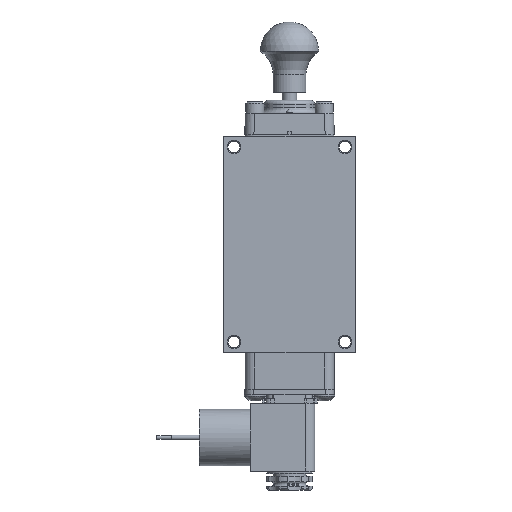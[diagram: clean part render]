
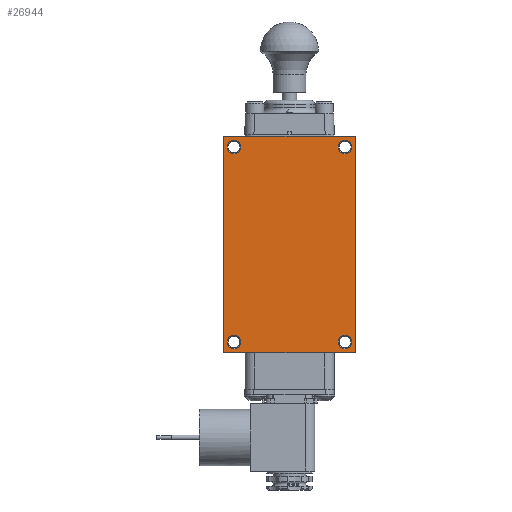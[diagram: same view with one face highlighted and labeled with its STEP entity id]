
A CAD part, front view. The second image highlights one B-rep face of the part: STEP entity #26944.
In plain terms, the highlighted planar face has unit normal (0, -1, 0).
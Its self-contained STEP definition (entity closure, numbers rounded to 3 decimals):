
#1107=FACE_BOUND('',#3964,.T.);
#1108=FACE_BOUND('',#3965,.T.);
#1109=FACE_BOUND('',#3966,.T.);
#1110=FACE_BOUND('',#3967,.T.);
#1449=PLANE('',#28669);
#2336=FACE_OUTER_BOUND('',#3963,.T.);
#3963=EDGE_LOOP('',(#18940,#18941,#18942,#18943));
#3964=EDGE_LOOP('',(#18944));
#3965=EDGE_LOOP('',(#18945));
#3966=EDGE_LOOP('',(#18946));
#3967=EDGE_LOOP('',(#18947));
#5511=CIRCLE('',#28667,0.296);
#5513=CIRCLE('',#28670,0.296);
#5514=CIRCLE('',#28671,0.296);
#5515=CIRCLE('',#28672,0.296);
#6768=LINE('',#40217,#8760);
#6776=LINE('',#40242,#8768);
#6995=LINE('',#41360,#8987);
#7238=LINE('',#42784,#9230);
#8760=VECTOR('',#31557,1.);
#8768=VECTOR('',#31575,1.);
#8987=VECTOR('',#31962,1.);
#9230=VECTOR('',#32355,1.);
#10852=VERTEX_POINT('',#40214);
#10853=VERTEX_POINT('',#40216);
#10864=VERTEX_POINT('',#40239);
#10865=VERTEX_POINT('',#40241);
#11373=VERTEX_POINT('',#43549);
#11375=VERTEX_POINT('',#43555);
#11376=VERTEX_POINT('',#43557);
#11377=VERTEX_POINT('',#43559);
#13382=EDGE_CURVE('',#10852,#10853,#6768,.T.);
#13394=EDGE_CURVE('',#10864,#10865,#6776,.T.);
#13685=EDGE_CURVE('',#10853,#10864,#6995,.T.);
#14022=EDGE_CURVE('',#10865,#10852,#7238,.T.);
#14155=EDGE_CURVE('',#11373,#11373,#5511,.T.);
#14158=EDGE_CURVE('',#11375,#11375,#5513,.T.);
#14159=EDGE_CURVE('',#11376,#11376,#5514,.T.);
#14160=EDGE_CURVE('',#11377,#11377,#5515,.T.);
#18940=ORIENTED_EDGE('',*,*,#14022,.F.);
#18941=ORIENTED_EDGE('',*,*,#13394,.F.);
#18942=ORIENTED_EDGE('',*,*,#13685,.F.);
#18943=ORIENTED_EDGE('',*,*,#13382,.F.);
#18944=ORIENTED_EDGE('',*,*,#14158,.F.);
#18945=ORIENTED_EDGE('',*,*,#14159,.F.);
#18946=ORIENTED_EDGE('',*,*,#14160,.F.);
#18947=ORIENTED_EDGE('',*,*,#14155,.F.);
#26944=ADVANCED_FACE('',(#2336,#1107,#1108,#1109,#1110),#1449,.F.);
#28667=AXIS2_PLACEMENT_3D('',#43550,#32598,#32599);
#28669=AXIS2_PLACEMENT_3D('',#43554,#32603,#32604);
#28670=AXIS2_PLACEMENT_3D('',#43556,#32605,#32606);
#28671=AXIS2_PLACEMENT_3D('',#43558,#32607,#32608);
#28672=AXIS2_PLACEMENT_3D('',#43560,#32609,#32610);
#31557=DIRECTION('',(-1.,0.,0.));
#31575=DIRECTION('',(1.,0.,0.));
#31962=DIRECTION('',(0.,0.,1.));
#32355=DIRECTION('',(0.,0.,-1.));
#32598=DIRECTION('center_axis',(0.,-1.,0.));
#32599=DIRECTION('ref_axis',(1.,0.,0.));
#32603=DIRECTION('center_axis',(0.,1.,0.));
#32604=DIRECTION('ref_axis',(0.,0.,1.));
#32605=DIRECTION('center_axis',(0.,-1.,0.));
#32606=DIRECTION('ref_axis',(1.,0.,0.));
#32607=DIRECTION('center_axis',(0.,-1.,0.));
#32608=DIRECTION('ref_axis',(1.,0.,0.));
#32609=DIRECTION('center_axis',(0.,-1.,0.));
#32610=DIRECTION('ref_axis',(1.,0.,0.));
#40214=CARTESIAN_POINT('',(2.858,-1.636,-4.71));
#40216=CARTESIAN_POINT('',(-2.858,-1.636,-4.71));
#40217=CARTESIAN_POINT('',(-2.858,-1.636,-4.71));
#40239=CARTESIAN_POINT('',(-2.858,-1.636,4.71));
#40241=CARTESIAN_POINT('',(2.858,-1.636,4.71));
#40242=CARTESIAN_POINT('',(2.858,-1.636,4.71));
#41360=CARTESIAN_POINT('',(-2.858,-1.636,4.71));
#42784=CARTESIAN_POINT('',(2.858,-1.636,-4.71));
#43549=CARTESIAN_POINT('',(2.125,-1.636,4.247));
#43550=CARTESIAN_POINT('Origin',(2.421,-1.636,4.247));
#43554=CARTESIAN_POINT('Origin',(0.,-1.636,0.));
#43555=CARTESIAN_POINT('',(-2.717,-1.636,4.247));
#43556=CARTESIAN_POINT('Origin',(-2.421,-1.636,4.247));
#43557=CARTESIAN_POINT('',(2.125,-1.636,-4.247));
#43558=CARTESIAN_POINT('Origin',(2.421,-1.636,-4.247));
#43559=CARTESIAN_POINT('',(-2.717,-1.636,-4.247));
#43560=CARTESIAN_POINT('Origin',(-2.421,-1.636,-4.247));
